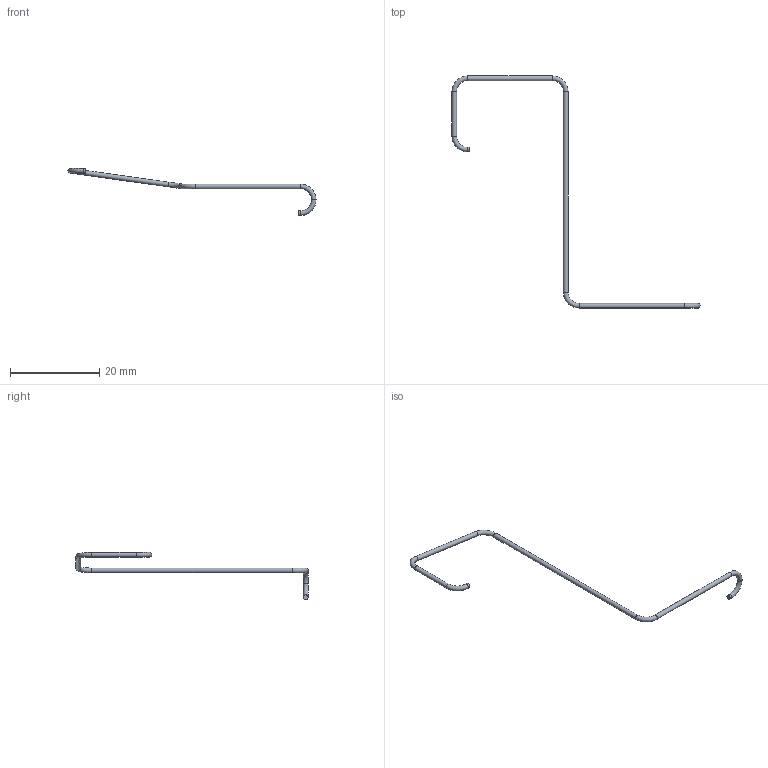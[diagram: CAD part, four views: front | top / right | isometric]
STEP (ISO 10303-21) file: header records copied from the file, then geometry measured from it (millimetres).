
FILE_DESCRIPTION(('Open CASCADE Model'),'2;1');
FILE_NAME('R36_J8_LED_PH_LEAD_3_OD1p05_R3','2026-09-15T14:14:49',( 'Author'),('Open CASCADE'),'Open CASCADE STEP processor 7.9', 'build123d','Unknown');
FILE_SCHEMA(('AUTOMOTIVE_DESIGN { 1 0 10303 214 1 1 1 1 }'));
Length unit declared in the file: millimetre
Products named in the file (1): R36_J8_LED_PH_LEAD_3_OD1p05_R3
Bounding box: 55.66 x 52.09 x 10.6 mm (x, y, z)
Volume: 110.1 mm3; surface area: 421.3 mm2
Topology: 1 solids, 1 shells, 15 faces, 27 edges, 14 vertices
Faces by surface type: cylinder 7, torus 6, plane 2
Full cylindrical faces by diameter (mm): 1.05 x7
Entity records: 701 total; most frequent: CARTESIAN_POINT 136, DIRECTION 108, ORIENTED_EDGE 54, PCURVE 54, DEFINITIONAL_REPRESENTATION 54, AXIS2_PLACEMENT_3D 36, LINE 34, VECTOR 34
